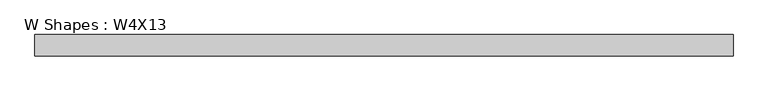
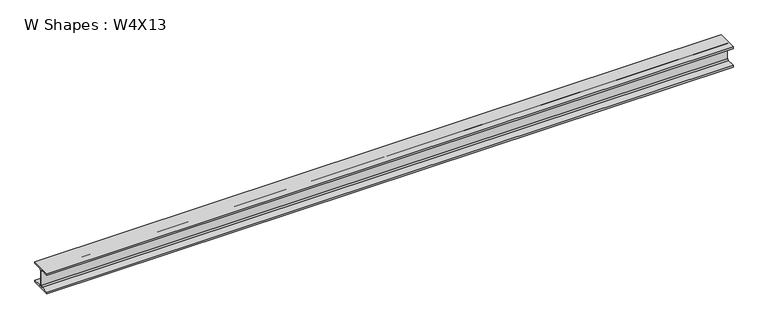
"""IFC4 building model written with IfcOpenShell, lengths in millimetres: beam geometry, W Shapes : W4X13."""

from ifc_helpers import new_model, si_unit, point, frame, frame_2d, origin, place, context, project, spatial, polyline, circle_curve, trimmed, segment, composite_curve, outline, extrude, source, transform, mapped, element, save


def w_shapes_w4x13_2bcaec1d(model_context):
    return source(origin(), model_context, "Body", "SweptSolid", [
        extrude(outline(composite_curve([segment(polyline([(51.562, -44.069), (51.562, -52.832), (-51.562, -52.832), (-51.562, -44.069), (-9.906, -44.069)]), True, "CONTINUOUS"), segment(trimmed(circle_curve(frame_2d((-9.906, -37.719)), 6.35), [point((-9.906, -44.069))], [point((-3.556, -37.719))], True, "CARTESIAN"), True, "CONTINUOUS"), segment(polyline([(-3.556, -37.719), (-3.556, 37.719)]), True, "CONTINUOUS"), segment(trimmed(circle_curve(frame_2d((-9.906, 37.719)), 6.35), [point((-3.556, 37.719))], [point((-9.906, 44.069))], True, "CARTESIAN"), True, "CONTINUOUS"), segment(polyline([(-9.906, 44.069), (-51.562, 44.069), (-51.562, 52.832), (51.562, 52.832), (51.562, 44.069), (9.906, 44.069)]), True, "CONTINUOUS"), segment(trimmed(circle_curve(frame_2d((9.906, 37.719)), 6.35), [point((9.906, 44.069))], [point((3.556, 37.719))], True, "CARTESIAN"), True, "CONTINUOUS"), segment(polyline([(3.556, 37.719), (3.556, -37.719)]), True, "CONTINUOUS"), segment(trimmed(circle_curve(frame_2d((9.906, -37.719)), 6.35), [point((3.556, -37.719))], [point((9.906, -44.069))], True, "CARTESIAN"), True, "CONTINUOUS"), segment(polyline([(9.906, -44.069), (51.562, -44.069)]), True, "CONTINUOUS")], self_intersect=False)), frame((-1765.173, 0.0, 0.0), z_axis=(1.0, 0.0, 0.0), x_axis=(0.0, 1.0, 0.0)), (0.0, 0.0, 1.0), 3398.393),
    ])


if __name__ == "__main__":
    model = new_model("IFC4")
    model_context = context("Model", 3, world=origin())
    ifc_project = project(units=[si_unit("LENGTHUNIT", "METRE", prefix="MILLI")], contexts=[model_context])
    site = spatial("IfcSite", under=ifc_project)
    building = spatial("IfcBuilding", under=site)
    placement = place(None, origin())
    w_shapes_w4x13_shape = w_shapes_w4x13_2bcaec1d(model_context)
    element("IfcBeam", 1, ObjectType="W Shapes : W4X13", at=placement, inside=building, context=model_context, shape_type="MappedRepresentation", body=[
        mapped(w_shapes_w4x13_shape, transform((0.0, 0.0, 0.0), x_axis=(1.0, 0.0, 0.0), y_axis=(0.0, 1.0, 0.0), z_axis=(0.0, 0.0, 1.0))),
    ])
    save(model, "model.ifc")
